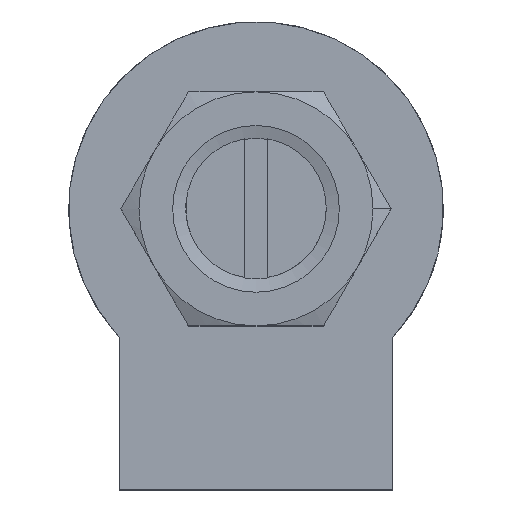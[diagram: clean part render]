
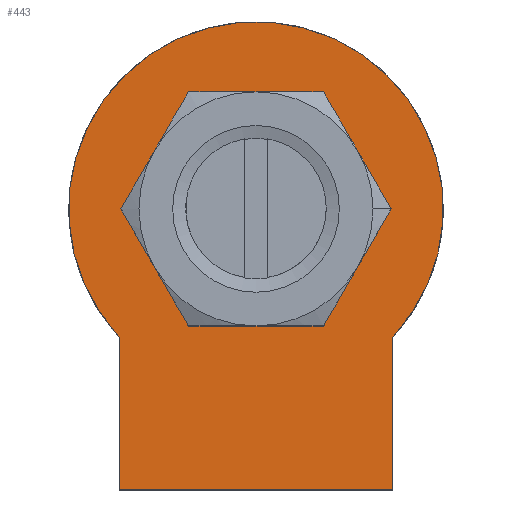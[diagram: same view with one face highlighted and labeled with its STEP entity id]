
A CAD part, top view. The second image highlights one B-rep face of the part: STEP entity #443.
In plain terms, the highlighted planar face has unit normal (0, 0, 1).
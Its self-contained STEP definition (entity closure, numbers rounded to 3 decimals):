
#114 = CYLINDRICAL_SURFACE('',#115,8.);
#115 = AXIS2_PLACEMENT_3D('',#116,#117,#118);
#116 = CARTESIAN_POINT('',(0.,0.,6.));
#117 = DIRECTION('',(-0.,-0.,-1.));
#118 = DIRECTION('',(1.,0.,0.));
#186 = VERTEX_POINT('',#187);
#187 = CARTESIAN_POINT('',(5.834,-5.474,7.));
#201 = PLANE('',#202);
#202 = AXIS2_PLACEMENT_3D('',#203,#204,#205);
#203 = CARTESIAN_POINT('',(5.834,-12.,6.));
#204 = DIRECTION('',(-1.,0.,0.));
#205 = DIRECTION('',(0.,1.,0.));
#213 = EDGE_CURVE('',#186,#214,#216,.T.);
#214 = VERTEX_POINT('',#215);
#215 = CARTESIAN_POINT('',(-5.834,-5.474,7.));
#216 = SURFACE_CURVE('',#217,(#222,#229),.PCURVE_S1.);
#217 = CIRCLE('',#218,8.);
#218 = AXIS2_PLACEMENT_3D('',#219,#220,#221);
#219 = CARTESIAN_POINT('',(0.,0.,7.));
#220 = DIRECTION('',(0.,0.,1.));
#221 = DIRECTION('',(1.,0.,0.));
#222 = PCURVE('',#114,#223);
#223 = DEFINITIONAL_REPRESENTATION('',(#224),#228);
#224 = LINE('',#225,#226);
#225 = CARTESIAN_POINT('',(-0.,-1.));
#226 = VECTOR('',#227,1.);
#227 = DIRECTION('',(-1.,0.));
#228 = ( GEOMETRIC_REPRESENTATION_CONTEXT(2) 
PARAMETRIC_REPRESENTATION_CONTEXT() REPRESENTATION_CONTEXT('2D SPACE',''
  ) );
#229 = PCURVE('',#230,#235);
#230 = PLANE('',#231);
#231 = AXIS2_PLACEMENT_3D('',#232,#233,#234);
#232 = CARTESIAN_POINT('',(0.,-3.214,7.));
#233 = DIRECTION('',(0.,0.,1.));
#234 = DIRECTION('',(1.,0.,0.));
#235 = DEFINITIONAL_REPRESENTATION('',(#236),#240);
#236 = CIRCLE('',#237,8.);
#237 = AXIS2_PLACEMENT_2D('',#238,#239);
#238 = CARTESIAN_POINT('',(0.,3.214));
#239 = DIRECTION('',(1.,0.));
#240 = ( GEOMETRIC_REPRESENTATION_CONTEXT(2) 
PARAMETRIC_REPRESENTATION_CONTEXT() REPRESENTATION_CONTEXT('2D SPACE',''
  ) );
#256 = PLANE('',#257);
#257 = AXIS2_PLACEMENT_3D('',#258,#259,#260);
#258 = CARTESIAN_POINT('',(-5.834,-5.474,6.));
#259 = DIRECTION('',(1.,0.,0.));
#260 = DIRECTION('',(0.,-1.,0.));
#334 = PLANE('',#335);
#335 = AXIS2_PLACEMENT_3D('',#336,#337,#338);
#336 = CARTESIAN_POINT('',(-5.834,-12.,6.));
#337 = DIRECTION('',(0.,1.,0.));
#338 = DIRECTION('',(1.,0.,0.));
#350 = VERTEX_POINT('',#351);
#351 = CARTESIAN_POINT('',(5.834,-12.,7.));
#372 = EDGE_CURVE('',#350,#186,#373,.T.);
#373 = SURFACE_CURVE('',#374,(#378,#385),.PCURVE_S1.);
#374 = LINE('',#375,#376);
#375 = CARTESIAN_POINT('',(5.834,-12.,7.));
#376 = VECTOR('',#377,1.);
#377 = DIRECTION('',(0.,1.,0.));
#378 = PCURVE('',#201,#379);
#379 = DEFINITIONAL_REPRESENTATION('',(#380),#384);
#380 = LINE('',#381,#382);
#381 = CARTESIAN_POINT('',(0.,-1.));
#382 = VECTOR('',#383,1.);
#383 = DIRECTION('',(1.,0.));
#384 = ( GEOMETRIC_REPRESENTATION_CONTEXT(2) 
PARAMETRIC_REPRESENTATION_CONTEXT() REPRESENTATION_CONTEXT('2D SPACE',''
  ) );
#385 = PCURVE('',#230,#386);
#386 = DEFINITIONAL_REPRESENTATION('',(#387),#391);
#387 = LINE('',#388,#389);
#388 = CARTESIAN_POINT('',(5.834,-8.786));
#389 = VECTOR('',#390,1.);
#390 = DIRECTION('',(0.,1.));
#391 = ( GEOMETRIC_REPRESENTATION_CONTEXT(2) 
PARAMETRIC_REPRESENTATION_CONTEXT() REPRESENTATION_CONTEXT('2D SPACE',''
  ) );
#399 = EDGE_CURVE('',#214,#400,#402,.T.);
#400 = VERTEX_POINT('',#401);
#401 = CARTESIAN_POINT('',(-5.834,-12.,7.));
#402 = SURFACE_CURVE('',#403,(#407,#414),.PCURVE_S1.);
#403 = LINE('',#404,#405);
#404 = CARTESIAN_POINT('',(-5.834,-5.474,7.));
#405 = VECTOR('',#406,1.);
#406 = DIRECTION('',(0.,-1.,0.));
#407 = PCURVE('',#256,#408);
#408 = DEFINITIONAL_REPRESENTATION('',(#409),#413);
#409 = LINE('',#410,#411);
#410 = CARTESIAN_POINT('',(0.,-1.));
#411 = VECTOR('',#412,1.);
#412 = DIRECTION('',(1.,0.));
#413 = ( GEOMETRIC_REPRESENTATION_CONTEXT(2) 
PARAMETRIC_REPRESENTATION_CONTEXT() REPRESENTATION_CONTEXT('2D SPACE',''
  ) );
#414 = PCURVE('',#230,#415);
#415 = DEFINITIONAL_REPRESENTATION('',(#416),#420);
#416 = LINE('',#417,#418);
#417 = CARTESIAN_POINT('',(-5.834,-2.26));
#418 = VECTOR('',#419,1.);
#419 = DIRECTION('',(0.,-1.));
#420 = ( GEOMETRIC_REPRESENTATION_CONTEXT(2) 
PARAMETRIC_REPRESENTATION_CONTEXT() REPRESENTATION_CONTEXT('2D SPACE',''
  ) );
#443 = ADVANCED_FACE('',(#444,#470),#230,.T.);
#444 = FACE_BOUND('',#445,.T.);
#445 = EDGE_LOOP('',(#446,#447,#448,#469));
#446 = ORIENTED_EDGE('',*,*,#213,.T.);
#447 = ORIENTED_EDGE('',*,*,#399,.T.);
#448 = ORIENTED_EDGE('',*,*,#449,.T.);
#449 = EDGE_CURVE('',#400,#350,#450,.T.);
#450 = SURFACE_CURVE('',#451,(#455,#462),.PCURVE_S1.);
#451 = LINE('',#452,#453);
#452 = CARTESIAN_POINT('',(-5.834,-12.,7.));
#453 = VECTOR('',#454,1.);
#454 = DIRECTION('',(1.,0.,0.));
#455 = PCURVE('',#230,#456);
#456 = DEFINITIONAL_REPRESENTATION('',(#457),#461);
#457 = LINE('',#458,#459);
#458 = CARTESIAN_POINT('',(-5.834,-8.786));
#459 = VECTOR('',#460,1.);
#460 = DIRECTION('',(1.,0.));
#461 = ( GEOMETRIC_REPRESENTATION_CONTEXT(2) 
PARAMETRIC_REPRESENTATION_CONTEXT() REPRESENTATION_CONTEXT('2D SPACE',''
  ) );
#462 = PCURVE('',#334,#463);
#463 = DEFINITIONAL_REPRESENTATION('',(#464),#468);
#464 = LINE('',#465,#466);
#465 = CARTESIAN_POINT('',(0.,-1.));
#466 = VECTOR('',#467,1.);
#467 = DIRECTION('',(1.,0.));
#468 = ( GEOMETRIC_REPRESENTATION_CONTEXT(2) 
PARAMETRIC_REPRESENTATION_CONTEXT() REPRESENTATION_CONTEXT('2D SPACE',''
  ) );
#469 = ORIENTED_EDGE('',*,*,#372,.T.);
#470 = FACE_BOUND('',#471,.T.);
#471 = EDGE_LOOP('',(#472));
#472 = ORIENTED_EDGE('',*,*,#473,.F.);
#473 = EDGE_CURVE('',#474,#474,#476,.T.);
#474 = VERTEX_POINT('',#475);
#475 = CARTESIAN_POINT('',(4.,0.,7.));
#476 = SURFACE_CURVE('',#477,(#482,#489),.PCURVE_S1.);
#477 = CIRCLE('',#478,4.);
#478 = AXIS2_PLACEMENT_3D('',#479,#480,#481);
#479 = CARTESIAN_POINT('',(0.,0.,7.));
#480 = DIRECTION('',(0.,0.,1.));
#481 = DIRECTION('',(1.,0.,0.));
#482 = PCURVE('',#230,#483);
#483 = DEFINITIONAL_REPRESENTATION('',(#484),#488);
#484 = CIRCLE('',#485,4.);
#485 = AXIS2_PLACEMENT_2D('',#486,#487);
#486 = CARTESIAN_POINT('',(0.,3.214));
#487 = DIRECTION('',(1.,0.));
#488 = ( GEOMETRIC_REPRESENTATION_CONTEXT(2) 
PARAMETRIC_REPRESENTATION_CONTEXT() REPRESENTATION_CONTEXT('2D SPACE',''
  ) );
#489 = PCURVE('',#490,#495);
#490 = CYLINDRICAL_SURFACE('',#491,4.);
#491 = AXIS2_PLACEMENT_3D('',#492,#493,#494);
#492 = CARTESIAN_POINT('',(0.,0.,7.));
#493 = DIRECTION('',(-0.,-0.,-1.));
#494 = DIRECTION('',(1.,-0.,0.));
#495 = DEFINITIONAL_REPRESENTATION('',(#496),#500);
#496 = LINE('',#497,#498);
#497 = CARTESIAN_POINT('',(-0.,0.));
#498 = VECTOR('',#499,1.);
#499 = DIRECTION('',(-1.,0.));
#500 = ( GEOMETRIC_REPRESENTATION_CONTEXT(2) 
PARAMETRIC_REPRESENTATION_CONTEXT() REPRESENTATION_CONTEXT('2D SPACE',''
  ) );
